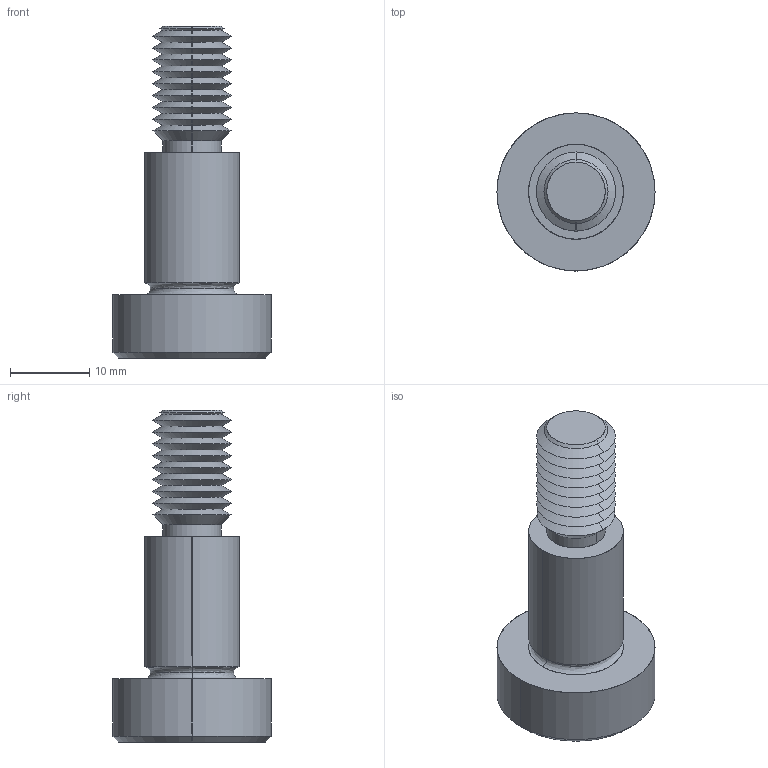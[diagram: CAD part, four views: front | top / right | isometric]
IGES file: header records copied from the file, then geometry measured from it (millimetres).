
Start section: SolidWorks IGES file using analytic representation for surfaces
Global section: file name: C:\Users\IanO\Documents\Temp Folder\GENERAL\SCREW REVISION\P0130_v2\P0130.T5_v2_20220106_IGES\P0130.120-018-T5.igs; native system: SolidWorks 2019; preprocessor: SolidWorks 2019; author: IanO; date: 220106.224616; units: millimetre
Bounding box: 20 x 20 x 42 mm (x, y, z)
Surface area: 2733 mm2 (no closed solid volume)
Topology: 0 solids, 0 shells, 76 faces, 564 edges, 562 vertices
Faces by surface type: revolution 56, bspline 20
